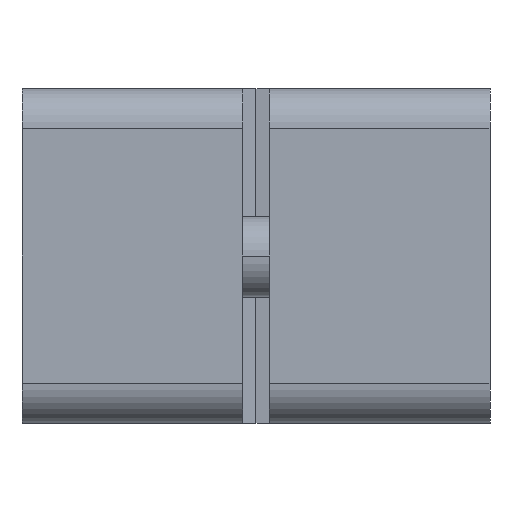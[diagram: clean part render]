
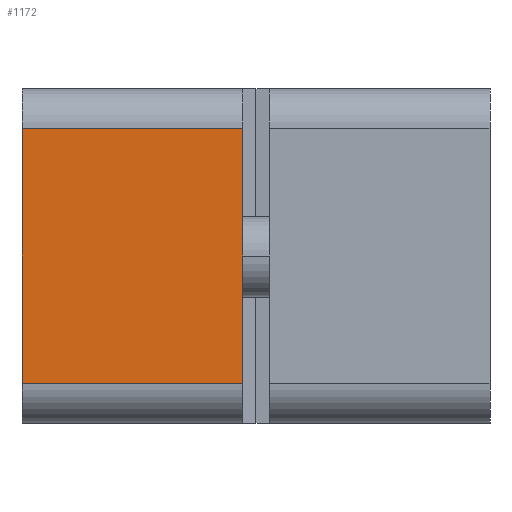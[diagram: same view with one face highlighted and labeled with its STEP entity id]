
A CAD part, left-side view. The second image highlights one B-rep face of the part: STEP entity #1172.
In plain terms, the highlighted planar face has unit normal (-1, 0, 0).
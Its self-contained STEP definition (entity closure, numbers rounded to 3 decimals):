
#405 = CARTESIAN_POINT ( 'NONE',  ( -37.5, 17.5, 22. ) ) ;
#856 = VERTEX_POINT ( 'NONE', #5268 ) ;
#969 = VECTOR ( 'NONE', #11227, 1000. ) ;
#1172 = ADVANCED_FACE ( 'NONE', ( #3764 ), #7172, .F. ) ;
#1254 = LINE ( 'NONE', #2536, #969 ) ;
#1533 = VERTEX_POINT ( 'NONE', #13495 ) ;
#1920 = EDGE_CURVE ( 'NONE', #6742, #1533, #12160, .T. ) ;
#2129 = ORIENTED_EDGE ( 'NONE', *, *, #3073, .T. ) ;
#2536 = CARTESIAN_POINT ( 'NONE',  ( -37.5, 17.5, 25. ) ) ;
#3073 = EDGE_CURVE ( 'NONE', #856, #4948, #14016, .T. ) ;
#3522 = CARTESIAN_POINT ( 'NONE',  ( -37.5, 1., 3. ) ) ;
#3764 = FACE_OUTER_BOUND ( 'NONE', #4911, .T. ) ;
#4455 = CARTESIAN_POINT ( 'NONE',  ( -37.5, -17.5, 3. ) ) ;
#4697 = CARTESIAN_POINT ( 'NONE',  ( -37.5, -17.5, 25. ) ) ;
#4835 = DIRECTION ( 'NONE',  ( 0., 0., -1. ) ) ;
#4911 = EDGE_LOOP ( 'NONE', ( #2129, #11716, #5375, #13239 ) ) ;
#4948 = VERTEX_POINT ( 'NONE', #3522 ) ;
#5092 = DIRECTION ( 'NONE',  ( 0., 0., -1. ) ) ;
#5268 = CARTESIAN_POINT ( 'NONE',  ( -37.5, 17.5, 3. ) ) ;
#5375 = ORIENTED_EDGE ( 'NONE', *, *, #1920, .T. ) ;
#5479 = VECTOR ( 'NONE', #8785, 1000. ) ;
#5785 = VECTOR ( 'NONE', #13424, 1000. ) ;
#6467 = EDGE_CURVE ( 'NONE', #6742, #4948, #6746, .T. ) ;
#6742 = VERTEX_POINT ( 'NONE', #10764 ) ;
#6746 = LINE ( 'NONE', #11055, #7691 ) ;
#6926 = AXIS2_PLACEMENT_3D ( 'NONE', #4697, #8097, #4835 ) ;
#7172 = PLANE ( 'NONE',  #6926 ) ;
#7691 = VECTOR ( 'NONE', #5092, 1000. ) ;
#8097 = DIRECTION ( 'NONE',  ( 1., 0., 0. ) ) ;
#8785 = DIRECTION ( 'NONE',  ( 0., -1., 0. ) ) ;
#9753 = EDGE_CURVE ( 'NONE', #1533, #856, #1254, .T. ) ;
#10764 = CARTESIAN_POINT ( 'NONE',  ( -37.5, 1., 22. ) ) ;
#11055 = CARTESIAN_POINT ( 'NONE',  ( -37.5, 1., 25. ) ) ;
#11227 = DIRECTION ( 'NONE',  ( 0., 0., -1. ) ) ;
#11716 = ORIENTED_EDGE ( 'NONE', *, *, #6467, .F. ) ;
#12160 = LINE ( 'NONE', #405, #5785 ) ;
#13239 = ORIENTED_EDGE ( 'NONE', *, *, #9753, .T. ) ;
#13424 = DIRECTION ( 'NONE',  ( 0., 1., 0. ) ) ;
#13495 = CARTESIAN_POINT ( 'NONE',  ( -37.5, 17.5, 22. ) ) ;
#14016 = LINE ( 'NONE', #4455, #5479 ) ;
